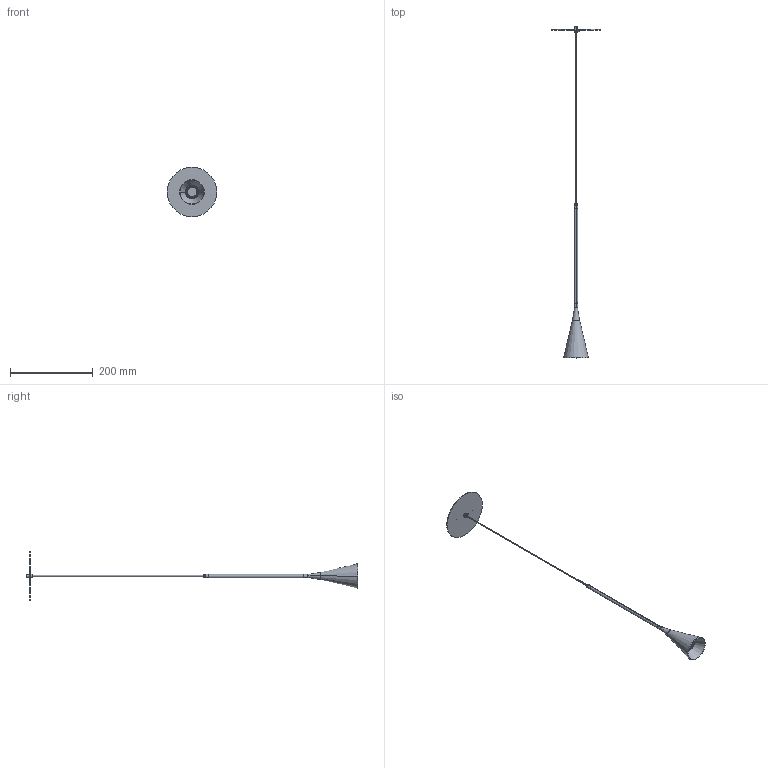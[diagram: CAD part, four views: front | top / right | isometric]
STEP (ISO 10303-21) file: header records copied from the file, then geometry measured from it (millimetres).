
FILE_DESCRIPTION (( 'STEP AP203' ), '1' );
FILE_NAME ('SKYBELL PLUS S-1L RECESSED 357562yy056.STEP', '2021-04-08T11:04:49', ( '' ), ( '' ), 'SwSTEP 2.0', 'SolidWorks 2019', '' );
FILE_SCHEMA (( 'CONFIG_CONTROL_DESIGN' ));
Length unit declared in the file: millimetre
Products named in the file (15): 000-357-516; 000-357-502; 000-ENSAMBLAJE CABEZAL 357_ PLUS; SKYBELL PLUS S-1L RECESSED 357562yy056; 000-CARCLO DIAM 26_5; 000-FLO100; 000-211-115; 000-10260 carclo; 000-258-509; 000-357-511; 000-ENSAMBLAJE 918-089; 913-030; 000-357_501; 000-357-505; 000-906-014N-2100
Assembly tree (14 placements, depth 5):
  SKYBELL PLUS S-1L RECESSED 357562yy056
    000-357-516
    000-906-014N-2100
    000-357-505
    000-357-511
    000-ENSAMBLAJE CABEZAL 357_ PLUS
      000-357-502
      000-ENSAMBLAJE 918-089
        000-CARCLO DIAM 26_5
          000-10260 carclo
      000-357_501
    000-FLO100
      000-211-115
      000-258-509
      913-030
Bounding box: 120 x 802.78 x 120 mm (x, y, z)
Volume: 95172.7 mm3; surface area: 67893.8 mm2
Topology: 10 solids, 10 shells, 203 faces, 466 edges, 293 vertices
Faces by surface type: cylinder 80, plane 53, cone 35, bspline 31, torus 4
Entity records: 9226 total; most frequent: CARTESIAN_POINT 3291, ORIENTED_EDGE 928, DIRECTION 894, EDGE_CURVE 464, AXIS2_PLACEMENT_3D 364, VERTEX_POINT 293, EDGE_LOOP 231, FACE_OUTER_BOUND 203
